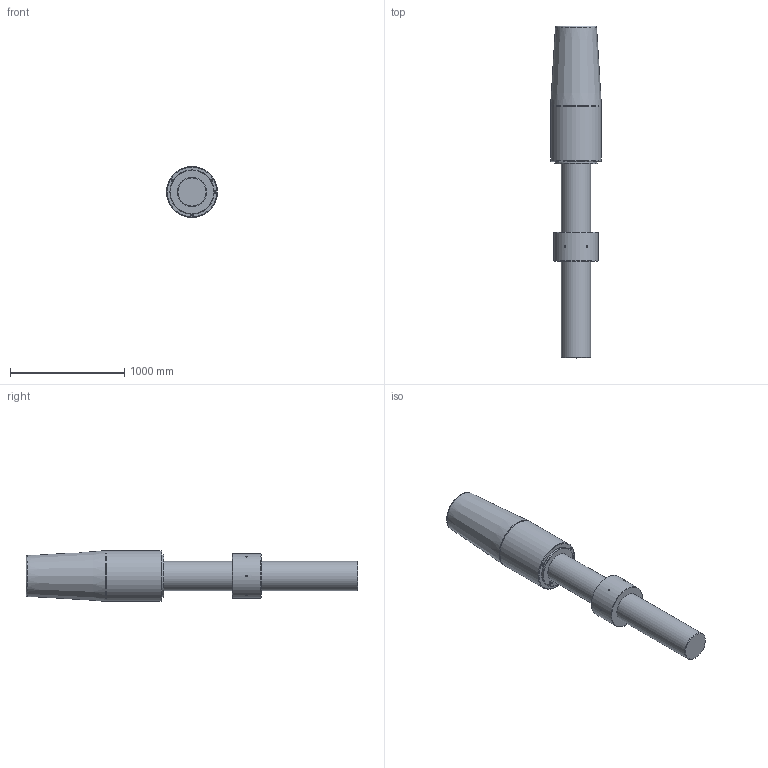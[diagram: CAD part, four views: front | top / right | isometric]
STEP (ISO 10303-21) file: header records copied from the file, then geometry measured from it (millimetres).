
FILE_DESCRIPTION(/* description */ (''),/* implementation_level */ '2;1');
FILE_NAME(/* name */ 'D:\Clienti\Redaelli (inventor)\CYB\STEP\Arrangement\CYB156 52 061 0.stp',/* time_stamp */ '2021-05-08T15:06:09+02:00',/* author */ ('fabri'),/* organization */ (''),/* preprocessor_version */ 'ST-DEVELOPER v16.13',/* originating_system */ 'Autodesk Inventor 2018',/* authorisation */ '');
FILE_SCHEMA (('AUTOMOTIVE_DESIGN { 1 0 10303 214 3 1 1 }'));
Length unit declared in the file: millimetre
Products named in the file (5): CYB156 52 061 0; RNT052 41 051 0_ROD; RNT052 41 051 0_ROD_1; CCY021-51-061-0_BUSH; CCY021-51-061-0
Assembly tree (4 placements, depth 2):
  CYB156 52 061 0
    RNT052 41 051 0_ROD
    RNT052 41 051 0_ROD_1
    CCY021-51-061-0_BUSH
    CCY021-51-061-0
Bounding box: 445 x 2902 x 445 mm (x, y, z)
Volume: 296488695.4 mm3; surface area: 4843027.7 mm2
Topology: 4 solids, 4 shells, 727 faces, 1968 edges, 1307 vertices
Faces by surface type: bspline 368, plane 321, cylinder 18, cone 16, torus 4
Full cylindrical faces by diameter (mm): 15 x6, 20.752 x3, 248.505 x2, 255 x1, 257 x1, 324 x1, 340 x1, 370 x1, 385 x1, 445 x1
Entity records: 24696 total; most frequent: CARTESIAN_POINT 8961, ORIENTED_EDGE 3838, DIRECTION 1951, EDGE_CURVE 1919, VERTEX_POINT 1297, LINE 1129, VECTOR 1129, EDGE_LOOP 828
